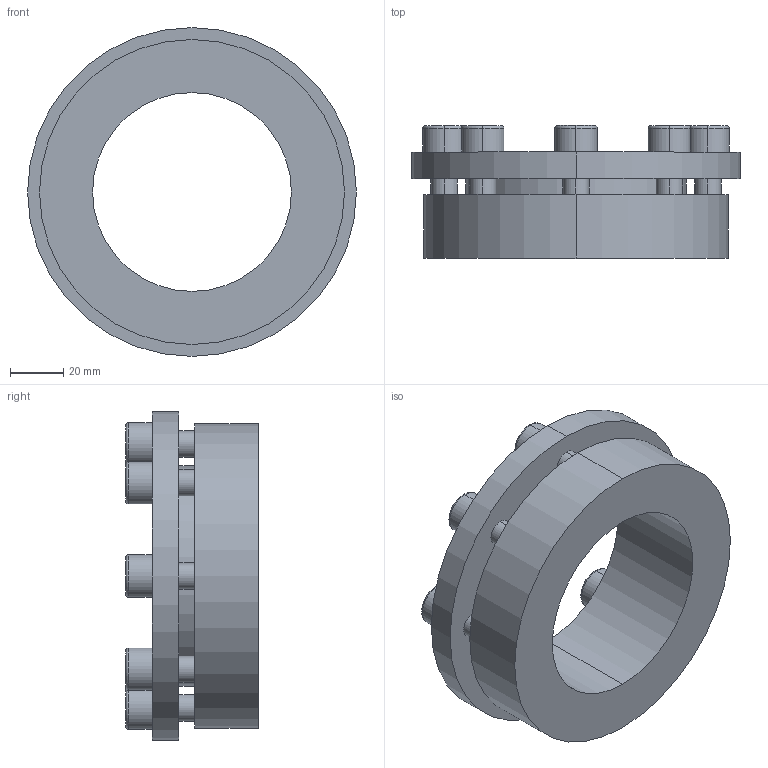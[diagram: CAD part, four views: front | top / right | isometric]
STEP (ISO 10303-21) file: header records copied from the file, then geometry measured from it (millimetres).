
FILE_DESCRIPTION (( 'STEP AP203' ), '1' );
FILE_NAME ('PL-H6 75-115.STEP', '2021-10-23T01:37:50', ( '' ), ( '' ), 'SwSTEP 2.0', 'SolidWorks 2018', '' );
FILE_SCHEMA (( 'CONFIG_CONTROL_DESIGN' ));
Length unit declared in the file: millimetre
Products named in the file (1): PL-H6 75-115
Bounding box: 124 x 50 x 124 mm (x, y, z)
Volume: 243351.2 mm3; surface area: 54030 mm2
Topology: 1 solids, 1 shells, 124 faces, 296 edges, 192 vertices
Faces by surface type: plane 68, cylinder 40, torus 16
Entity records: 3717 total; most frequent: DIRECTION 658, CARTESIAN_POINT 613, ORIENTED_EDGE 592, EDGE_CURVE 296, AXIS2_PLACEMENT_3D 237, VERTEX_POINT 192, LINE 184, VECTOR 184
